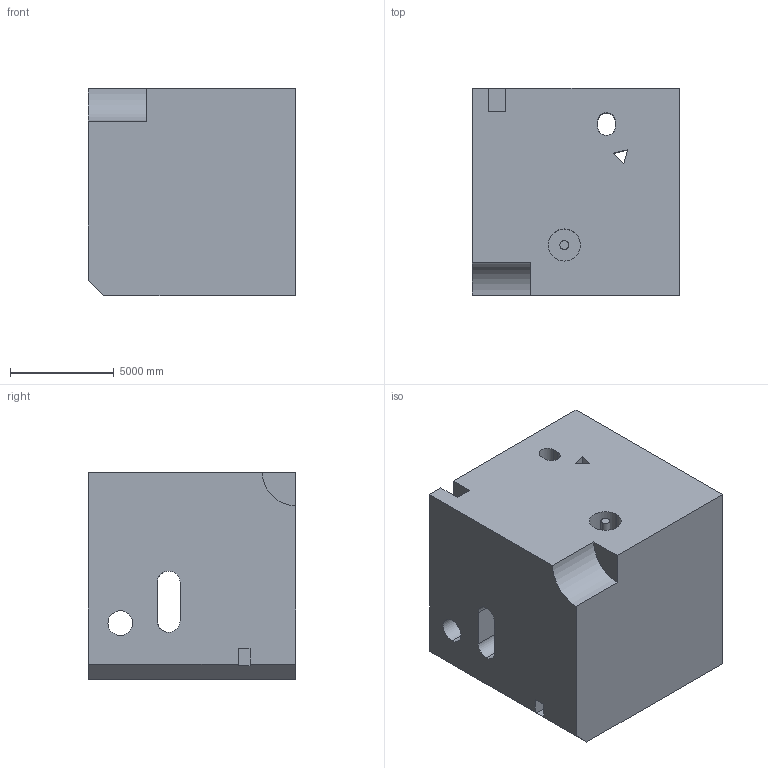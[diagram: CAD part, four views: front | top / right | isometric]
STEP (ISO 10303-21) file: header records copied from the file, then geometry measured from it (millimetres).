
FILE_DESCRIPTION (( 'STEP AP203' ), '1' );
FILE_NAME ('98.STEP', '2022-09-02T15:28:06', ( 'user' ), ( '' ), 'SwSTEP 2.0', 'SolidWorks 2021', '' );
FILE_SCHEMA (( 'CONFIG_CONTROL_DESIGN' ));
Length unit declared in the file: centimetre
Products named in the file (1): 98
Bounding box: 10000 x 10000 x 10000 mm (x, y, z)
Volume: 920385109536.7 mm3; surface area: 797404666.2 mm2
Topology: 1 solids, 1 shells, 48 faces, 147 edges, 98 vertices
Faces by surface type: plane 32, cylinder 16
Entity records: 2344 total; most frequent: CARTESIAN_POINT 922, ORIENTED_EDGE 294, DIRECTION 263, EDGE_CURVE 147, LINE 101, VECTOR 101, VERTEX_POINT 98, AXIS2_PLACEMENT_3D 81
